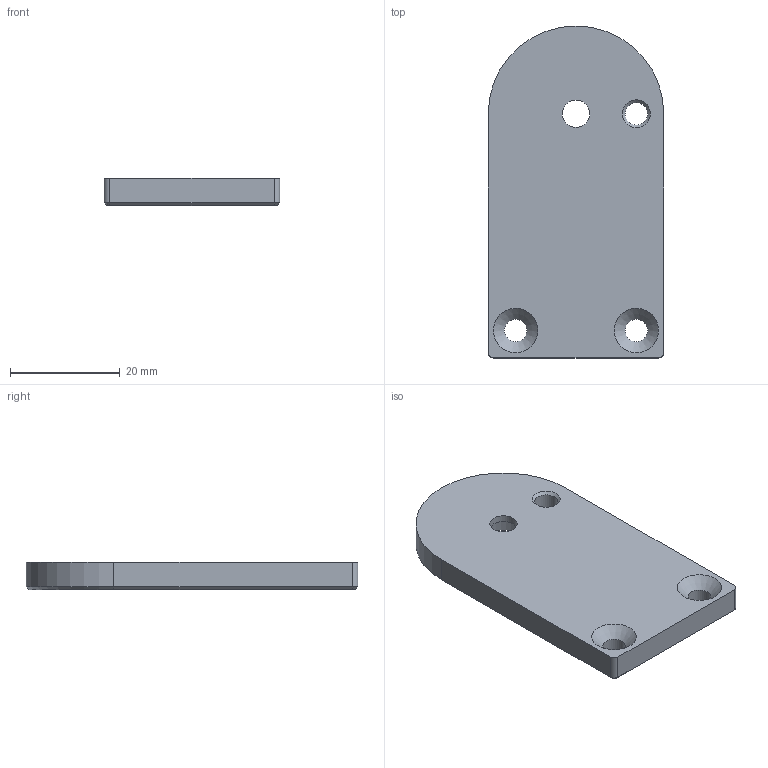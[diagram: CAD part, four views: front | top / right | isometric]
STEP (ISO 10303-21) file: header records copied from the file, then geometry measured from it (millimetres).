
FILE_DESCRIPTION(/* description */ (''),/* implementation_level */ '2;1');
FILE_NAME(/* name */ 'Tilt-Plate-L-final.step',/* time_stamp */ '2025-06-23T21:25:13-04:00',/* author */ (''),/* organization */ (''),/* preprocessor_version */ 'ST-DEVELOPER v20.1',/* originating_system */ 'Autodesk Translation Framework v14.10.0.0',/* authorisation */ '');
FILE_SCHEMA (('AUTOMOTIVE_DESIGN { 1 0 10303 214 3 1 1 }'));
Length unit declared in the file: millimetre
Products named in the file (1): Tilt-Plate-L
Bounding box: 32 x 60.5 x 5 mm (x, y, z)
Volume: 8511.4 mm3; surface area: 4643.7 mm2
Topology: 1 solids, 1 shells, 23 faces, 51 edges, 31 vertices
Faces by surface type: plane 9, cylinder 8, cone 6
Full cylindrical faces by diameter (mm): 4.1 x3, 5 x1, 10.2 x1
Entity records: 691 total; most frequent: DIRECTION 121, CARTESIAN_POINT 106, ORIENTED_EDGE 102, EDGE_CURVE 51, AXIS2_PLACEMENT_3D 46, EDGE_LOOP 32, VERTEX_POINT 31, LINE 29
